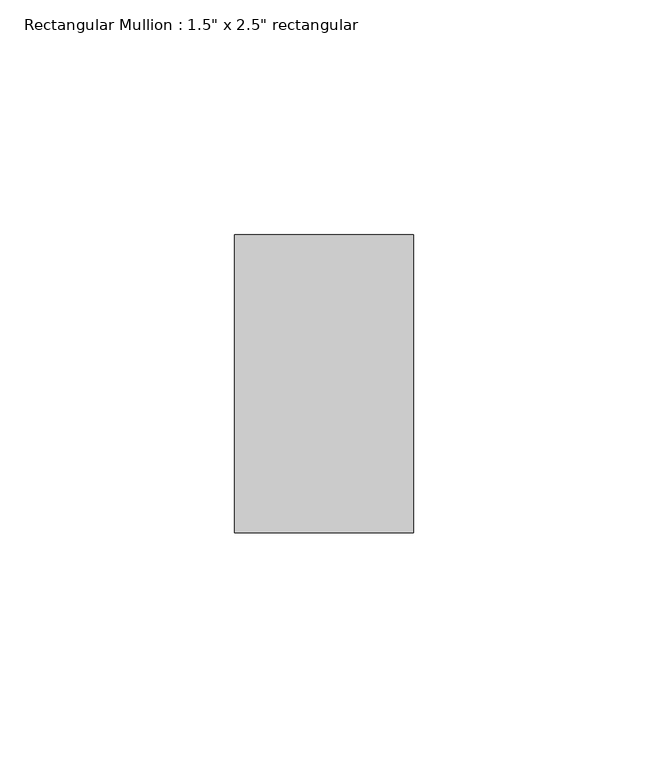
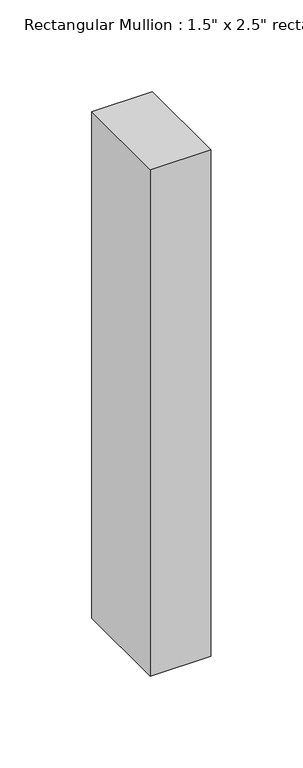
"""IFC4 building model written with IfcOpenShell, lengths in millimetres: member geometry."""

from ifc_helpers import new_model, si_unit, frame, origin, place, context, project, spatial, polyline, outline, extrude, source, transform, mapped, element, save


def member_b36b38ba(model_context):
    return source(origin(), model_context, "Body", "SweptSolid", [
        extrude(outline(polyline([(19.05, 31.75), (19.05, -31.75), (-19.05, -31.75), (-19.05, 31.75), (19.05, 31.75)])), frame((0.0, 0.0, -336.55), z_axis=(0.0, 0.0, 1.0), x_axis=(1.0, 0.0, 0.0)), (0.0, 0.0, 1.0), 336.55),
    ])


if __name__ == "__main__":
    model = new_model("IFC4")
    model_context = context("Model", 3, world=origin())
    ifc_project = project(units=[si_unit("LENGTHUNIT", "METRE", prefix="MILLI")], contexts=[model_context])
    site = spatial("IfcSite", under=ifc_project)
    building = spatial("IfcBuilding", under=site)
    placement = place(None, origin())
    member_shape = member_b36b38ba(model_context)
    element("IfcMember", 1, ObjectType="Rectangular Mullion : 1.5\" x 2.5\" rectangular", at=placement, inside=building, context=model_context, shape_type="MappedRepresentation", body=[
        mapped(member_shape, transform((0.0, 0.0, 0.0), x_axis=(1.0, 0.0, 0.0), y_axis=(0.0, 1.0, 0.0), z_axis=(0.0, 0.0, 1.0))),
    ])
    save(model, "model.ifc")
